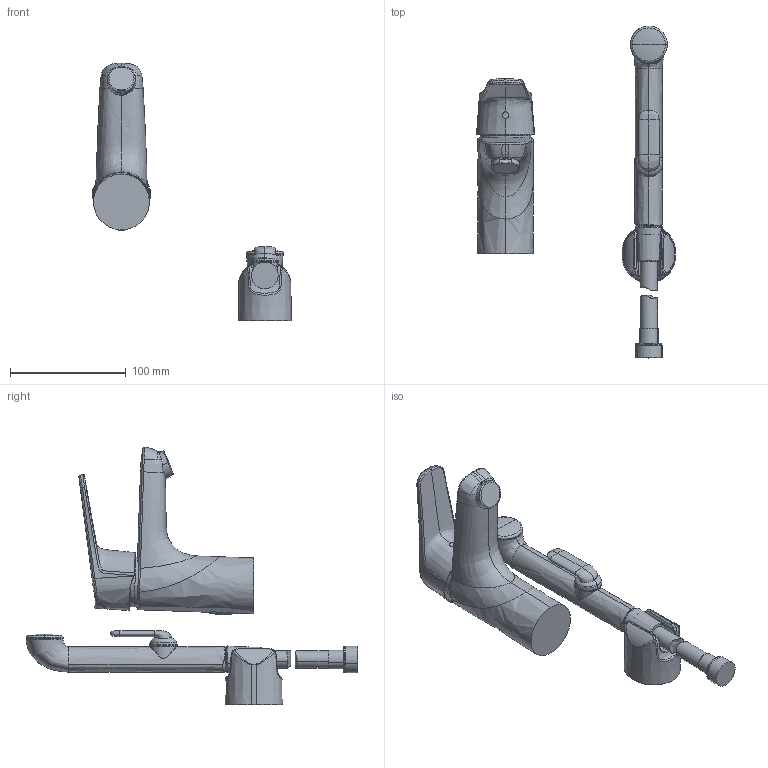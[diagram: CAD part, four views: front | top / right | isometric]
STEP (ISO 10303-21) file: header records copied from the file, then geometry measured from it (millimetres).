
FILE_DESCRIPTION (( 'STEP AP203' ), '1' );
FILE_NAME ('1812AG(2018)+1812FG(2018)+1812G(2018).STEP', '2018-10-10T06:50:57', ( '' ), ( '' ), 'SwSTEP 2.0', 'SolidWorks 2016', '' );
FILE_SCHEMA (( 'CONFIG_CONTROL_DESIGN' ));
Length unit declared in the file: millimetre
Products named in the file (1): 1812AG(2018)+1812FG(2018)+1812G(2018)
Bounding box: 171.59 x 286.42 x 222.4 mm (x, y, z)
Volume: 547672.8 mm3; surface area: 87181.5 mm2
Topology: 12 solids, 12 shells, 262 faces, 627 edges, 386 vertices
Faces by surface type: bspline 137, cylinder 48, plane 37, cone 16, torus 16, sphere 8
Entity records: 39888 total; most frequent: CARTESIAN_POINT 34998, ORIENTED_EDGE 1238, DIRECTION 619, EDGE_CURVE 619, VERTEX_POINT 386, B_SPLINE_CURVE_WITH_KNOTS 365, AXIS2_PLACEMENT_3D 269, EDGE_LOOP 267
